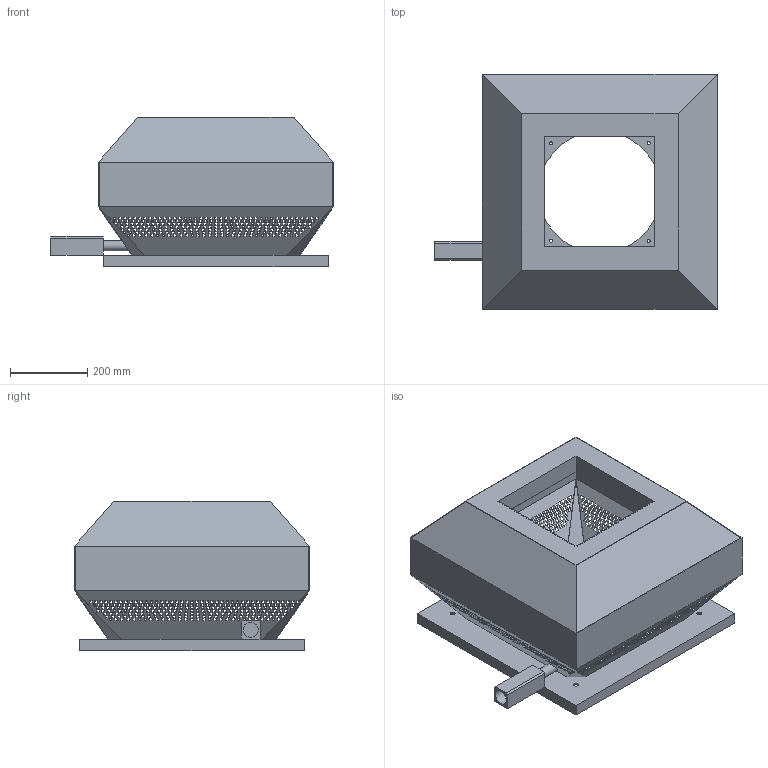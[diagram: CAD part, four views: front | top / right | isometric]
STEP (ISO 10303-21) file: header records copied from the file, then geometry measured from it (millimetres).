
FILE_DESCRIPTION(/* description */ (''),/* implementation_level */ '2;1');
FILE_NAME(/* name */ 'Z:\Output\RDW_315-4-07287-001.stp',/* time_stamp */ '2020-06-25T16:48:54+02:00',/* author */ ('engineering1'),/* organization */ (''),/* preprocessor_version */ 'ST-DEVELOPER v17.2',/* originating_system */ 'Autodesk Inventor 2019',/* authorisation */ '');
FILE_SCHEMA (('AUTOMOTIVE_DESIGN { 1 0 10303 214 3 1 1 }'));
Products named in the file (1): RD-2
Bounding box: 729 x 606 x 386 mm (x, y, z)
Volume: 3352673.7 mm3; surface area: 2713148.2 mm2
Topology: 1 solids, 1 shells, 4057 faces, 12216 edges, 8120 vertices
Faces by surface type: plane 4041, cylinder 16
Full cylindrical faces by diameter (mm): 8 x8, 12 x4, 25.733 x2, 38.6 x1, 315 x1
Entity records: 140131 total; most frequent: ORIENTED_EDGE 24432, CARTESIAN_POINT 24394, DIRECTION 20364, EDGE_CURVE 12216, LINE 12184, VECTOR 12184, VERTEX_POINT 8120, EDGE_LOOP 6020
